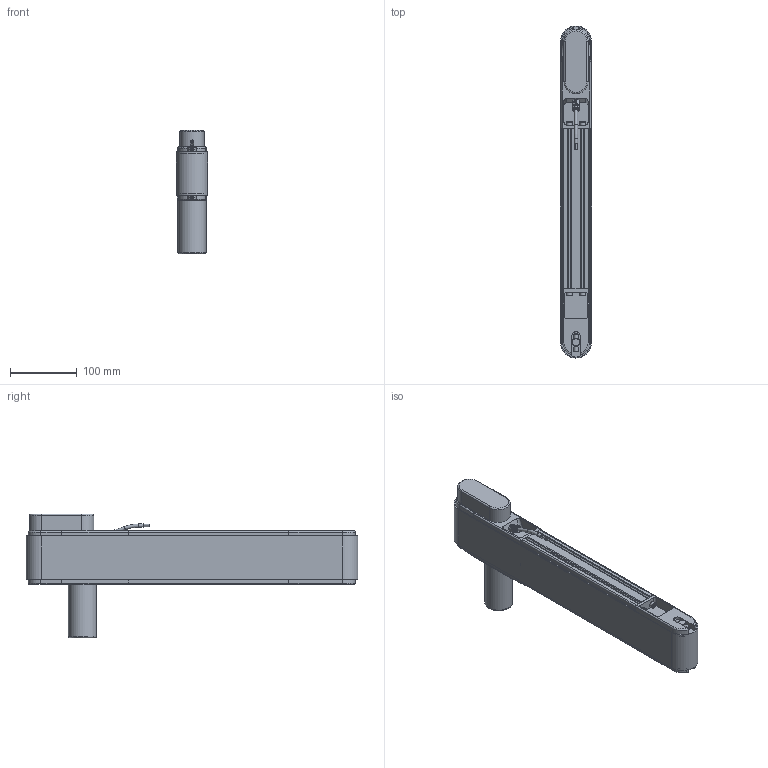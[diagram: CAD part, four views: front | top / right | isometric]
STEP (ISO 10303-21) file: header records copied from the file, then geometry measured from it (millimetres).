
FILE_DESCRIPTION(/* description */ (''),/* implementation_level */ '2;1');
FILE_NAME(/* name */ 'G:\DATEN\CAD\Förderband\Marketing\3D-Modelle (Standard)\FR-40-80-Q\FR-40-80-Q-450-K (Motorendrohr 80 mm).stp',/* time_stamp */ '2019-05-08T14:08:46+02:00',/* author */ ('melanie.ochs'),/* organization */ (''),/* preprocessor_version */ 'ST-DEVELOPER v17',/* originating_system */ 'Autodesk Inventor 2019',/* authorisation */ '');
FILE_SCHEMA (('CONFIG_CONTROL_DESIGN'));
Length unit declared in the file: millimetre
Products named in the file (1): FR-40-80-Q-450-K (Motorendrohr 80 mm)
Bounding box: 46.6 x 496.6 x 185 mm (x, y, z)
Volume: 1184033.5 mm3; surface area: 477519.7 mm2
Topology: 31 solids, 32 shells, 869 faces, 2363 edges, 1605 vertices
Faces by surface type: plane 438, cylinder 271, cone 68, bspline 61, torus 31
Full cylindrical faces by diameter (mm): 2 x2, 4 x6, 4.3 x4, 4.65 x1, 4.917 x2, 5 x11, 5.5 x8, 6 x2, 6.5 x1, 6.773 x1, 6.917 x2, 8 x7, 8.3 x8, 8.5 x8, 8.773 x1, 10 x1, 11 x1, 12 x3, 25 x2, 28 x4, 42 x2, 44 x2
Entity records: 29196 total; most frequent: CARTESIAN_POINT 6156, ORIENTED_EDGE 4688, DIRECTION 4540, EDGE_CURVE 2344, AXIS2_PLACEMENT_3D 1641, VERTEX_POINT 1605, LINE 1258, VECTOR 1258
